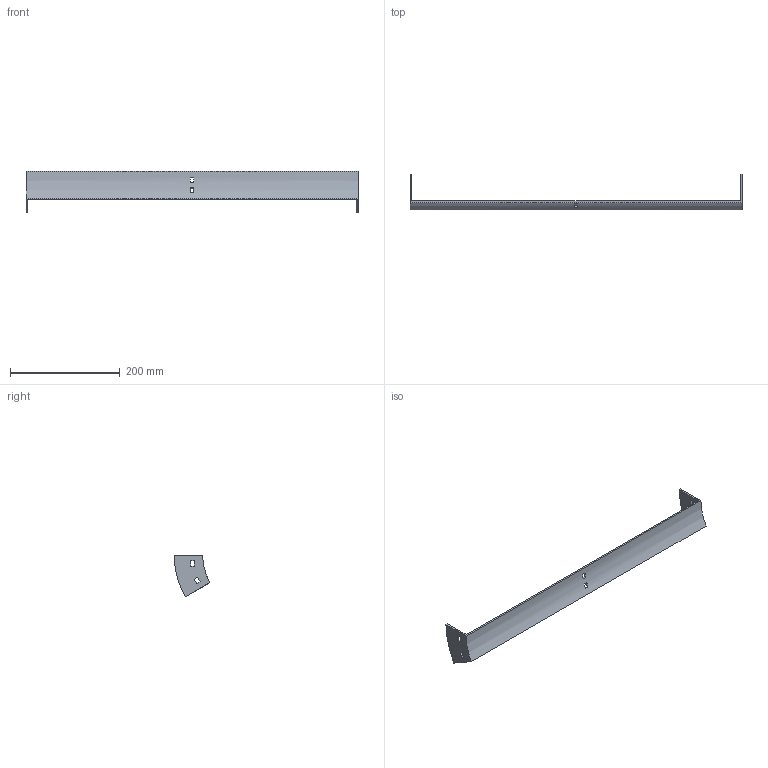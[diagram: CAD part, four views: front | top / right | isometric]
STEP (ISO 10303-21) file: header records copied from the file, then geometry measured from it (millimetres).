
FILE_DESCRIPTION (( 'STEP AP214' ), '1' );
FILE_NAME ('35B1B600.step', '2025-02-21T09:25:40', ( '' ), ( '' ), 'SwSTEP 2.0', 'SolidWorks 2023', '' );
FILE_SCHEMA (( 'AUTOMOTIVE_DESIGN' ));
Length unit declared in the file: millimetre
Products named in the file (1): 35B1B600
Bounding box: 604 x 65.4 x 76 mm (x, y, z)
Volume: 133939.8 mm3; surface area: 82690.8 mm2
Topology: 1 solids, 1 shells, 34 faces, 96 edges, 64 vertices
Faces by surface type: plane 30, cylinder 4
Entity records: 1143 total; most frequent: CARTESIAN_POINT 195, ORIENTED_EDGE 192, DIRECTION 182, EDGE_CURVE 96, LINE 80, VECTOR 80, VERTEX_POINT 64, AXIS2_PLACEMENT_3D 51
